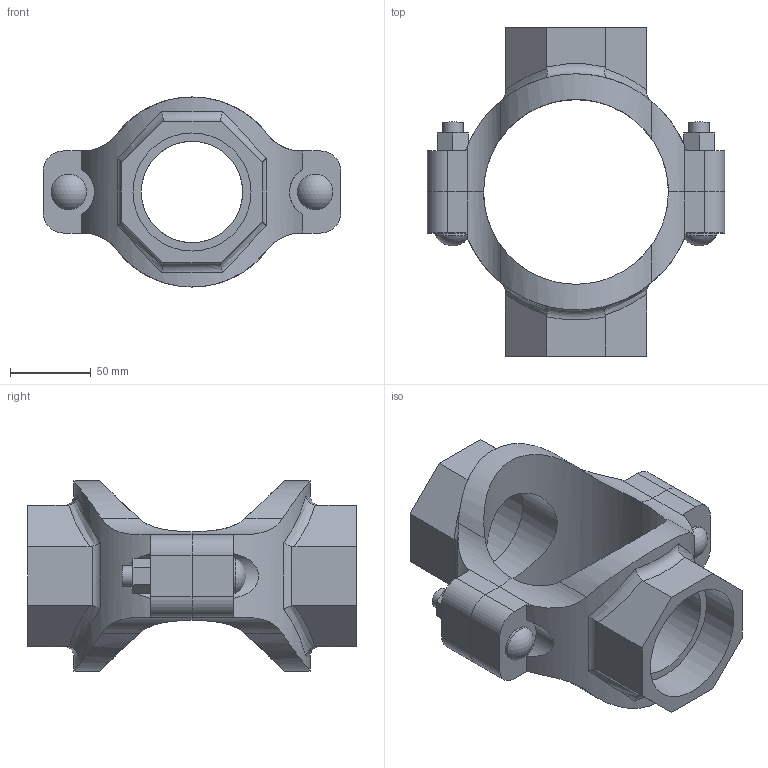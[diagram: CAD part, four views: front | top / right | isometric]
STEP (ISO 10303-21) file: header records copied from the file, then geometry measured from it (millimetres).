
FILE_DESCRIPTION(/* description */ ('VIC MECH-T BRANCH OUTLET CROSS STYLE 920N (THD)','CAx-IF Rec.Pracs.---Representation and Presentation of Product Manufacturing Information (PMI)---4.0---2014-10-13'),/* implementation_level */ '2;1');
FILE_NAME(/* name */ 'C:\Users\Vjadhav\AppData\Roaming\Autodesk\ApplicationPlugins\Back Up\Victaulic_IPS_Mechanical-Cross Outlet_Style 920N (FPT)\Victaulic_IPS_Mechanical-Cross Outlet_04.0x02.5x02.5 (100x65x65).stp',/* time_stamp */ '2020-08-06T18:58:44+05:00',/* author */ ('Vjadhav'),/* organization */ ('Victaulic'),/* preprocessor_version */ 'ST-DEVELOPER v17.2',/* originating_system */ 'Autodesk Inventor 2019',/* authorisation */ '');
FILE_SCHEMA (('AP242_MANAGED_MODEL_BASED_3D_ENGINEERING_MIM_LF { 1 0 10303 442 1 1 4 }'));
Length unit declared in the file: inch
Products named in the file (3): 920NT-04.0x02.5x02.5; 920T-04.0x02.5; 920T-04.0x02.5_1
Assembly tree (2 placements, depth 2):
  920NT-04.0x02.5x02.5
    920T-04.0x02.5
    920T-04.0x02.5_1
Bounding box: 184.15 x 203.2 x 117.6 mm (x, y, z)
Volume: 679168.6 mm3; surface area: 134807.9 mm2
Topology: 2 solids, 2 shells, 132 faces, 350 edges, 236 vertices
Faces by surface type: plane 68, cylinder 50, bspline 8, torus 4, sphere 2
Full cylindrical faces by diameter (mm): 12.7 x4, 21.982 x2, 62.738 x2, 73.025 x2
Entity records: 5408 total; most frequent: CARTESIAN_POINT 1895, ORIENTED_EDGE 700, DIRECTION 648, EDGE_CURVE 350, VERTEX_POINT 236, AXIS2_PLACEMENT_3D 231, LINE 186, VECTOR 186
